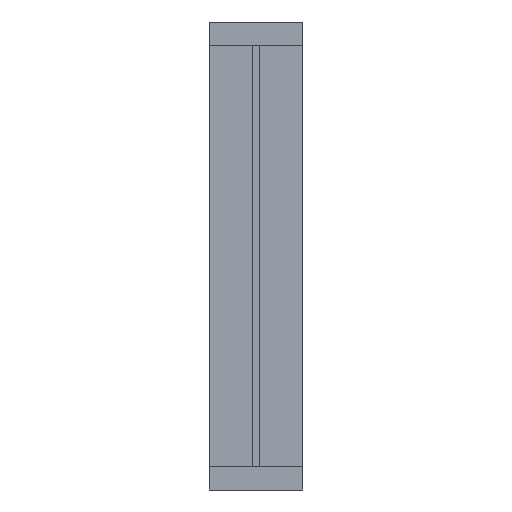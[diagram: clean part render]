
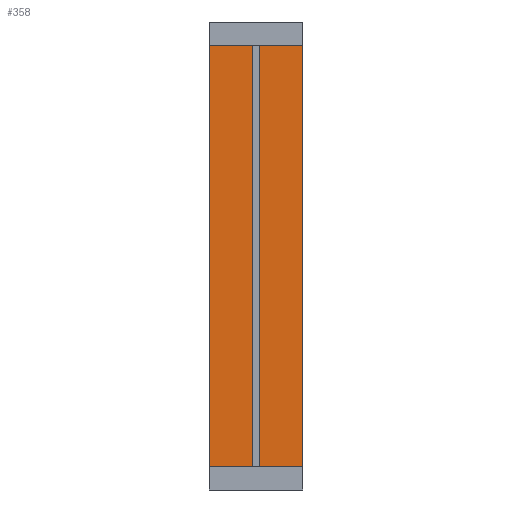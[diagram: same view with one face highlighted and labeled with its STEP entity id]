
A CAD part, front view. The second image highlights one B-rep face of the part: STEP entity #358.
In plain terms, the highlighted planar face has unit normal (0, -1, 0).
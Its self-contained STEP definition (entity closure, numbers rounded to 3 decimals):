
#54 = PLANE ( 'NONE',  #329 ) ;
#55 = EDGE_CURVE ( 'NONE', #631, #1055, #356, .T. ) ;
#69 = VECTOR ( 'NONE', #707, 1000. ) ;
#74 = VECTOR ( 'NONE', #201, 1000. ) ;
#76 = CARTESIAN_POINT ( 'NONE',  ( -190., 520., 1900. ) ) ;
#96 = VECTOR ( 'NONE', #901, 1000. ) ;
#116 = EDGE_CURVE ( 'NONE', #1217, #273, #851, .T. ) ;
#117 = DIRECTION ( 'NONE',  ( -1., 0., 0. ) ) ;
#147 = EDGE_CURVE ( 'NONE', #1073, #876, #1216, .T. ) ;
#161 = ORIENTED_EDGE ( 'NONE', *, *, #116, .F. ) ;
#180 = CARTESIAN_POINT ( 'NONE',  ( 190., 520., 100. ) ) ;
#201 = DIRECTION ( 'NONE',  ( 0., 0., -1. ) ) ;
#205 = VECTOR ( 'NONE', #1149, 1000. ) ;
#210 = CARTESIAN_POINT ( 'NONE',  ( 190., 520., 100. ) ) ;
#269 = EDGE_CURVE ( 'NONE', #876, #1217, #1221, .T. ) ;
#273 = VERTEX_POINT ( 'NONE', #996 ) ;
#274 = CARTESIAN_POINT ( 'NONE',  ( 190., 520., 1900. ) ) ;
#275 = VERTEX_POINT ( 'NONE', #1460 ) ;
#282 = EDGE_LOOP ( 'NONE', ( #1402, #369, #1447, #867, #449, #371, #1415, #1020, #757, #649, #161, #1079 ) ) ;
#289 = VECTOR ( 'NONE', #535, 1000. ) ;
#294 = EDGE_CURVE ( 'NONE', #1055, #361, #465, .T. ) ;
#295 = CARTESIAN_POINT ( 'NONE',  ( 200., 520., 100. ) ) ;
#329 = AXIS2_PLACEMENT_3D ( 'NONE', #1316, #1333, #509 ) ;
#356 = LINE ( 'NONE', #1371, #69 ) ;
#358 = ADVANCED_FACE ( 'NONE', ( #1224 ), #54, .T. ) ;
#361 = VERTEX_POINT ( 'NONE', #180 ) ;
#369 = ORIENTED_EDGE ( 'NONE', *, *, #452, .F. ) ;
#370 = DIRECTION ( 'NONE',  ( 0., 0., 1. ) ) ;
#371 = ORIENTED_EDGE ( 'NONE', *, *, #294, .F. ) ;
#392 = CARTESIAN_POINT ( 'NONE',  ( -190., 520., 2000. ) ) ;
#449 = ORIENTED_EDGE ( 'NONE', *, *, #1121, .F. ) ;
#452 = EDGE_CURVE ( 'NONE', #1231, #1073, #1372, .T. ) ;
#465 = LINE ( 'NONE', #1285, #671 ) ;
#481 = VERTEX_POINT ( 'NONE', #1472 ) ;
#509 = DIRECTION ( 'NONE',  ( 0., 0., -1. ) ) ;
#527 = CARTESIAN_POINT ( 'NONE',  ( -200., 520., 100. ) ) ;
#535 = DIRECTION ( 'NONE',  ( 1., 0., 0. ) ) ;
#625 = DIRECTION ( 'NONE',  ( 0., 0., 1. ) ) ;
#631 = VERTEX_POINT ( 'NONE', #917 ) ;
#639 = EDGE_CURVE ( 'NONE', #275, #1231, #1387, .T. ) ;
#649 = ORIENTED_EDGE ( 'NONE', *, *, #990, .F. ) ;
#658 = CARTESIAN_POINT ( 'NONE',  ( -190., 520., 1900. ) ) ;
#671 = VECTOR ( 'NONE', #699, 1000. ) ;
#672 = VECTOR ( 'NONE', #1349, 1000. ) ;
#699 = DIRECTION ( 'NONE',  ( -1., 0., 0. ) ) ;
#707 = DIRECTION ( 'NONE',  ( 0., 0., -1. ) ) ;
#708 = CARTESIAN_POINT ( 'NONE',  ( 190., 520., 1900. ) ) ;
#727 = DIRECTION ( 'NONE',  ( 1., 0., 0. ) ) ;
#737 = VERTEX_POINT ( 'NONE', #1412 ) ;
#738 = CARTESIAN_POINT ( 'NONE',  ( -200., 520., 1900. ) ) ;
#756 = EDGE_CURVE ( 'NONE', #1441, #631, #954, .T. ) ;
#757 = ORIENTED_EDGE ( 'NONE', *, *, #1278, .F. ) ;
#777 = LINE ( 'NONE', #1267, #1356 ) ;
#851 = LINE ( 'NONE', #392, #930 ) ;
#867 = ORIENTED_EDGE ( 'NONE', *, *, #1344, .F. ) ;
#876 = VERTEX_POINT ( 'NONE', #1077 ) ;
#879 = VECTOR ( 'NONE', #727, 1000. ) ;
#901 = DIRECTION ( 'NONE',  ( 0., 0., -1. ) ) ;
#917 = CARTESIAN_POINT ( 'NONE',  ( 200., 520., 1900. ) ) ;
#924 = CARTESIAN_POINT ( 'NONE',  ( -190., 520., 100. ) ) ;
#930 = VECTOR ( 'NONE', #370, 1000. ) ;
#954 = LINE ( 'NONE', #274, #879 ) ;
#980 = CARTESIAN_POINT ( 'NONE',  ( 190., 520., 2000. ) ) ;
#990 = EDGE_CURVE ( 'NONE', #273, #481, #1442, .T. ) ;
#994 = LINE ( 'NONE', #210, #96 ) ;
#996 = CARTESIAN_POINT ( 'NONE',  ( -190., 520., 2000. ) ) ;
#1020 = ORIENTED_EDGE ( 'NONE', *, *, #756, .F. ) ;
#1055 = VERTEX_POINT ( 'NONE', #295 ) ;
#1073 = VERTEX_POINT ( 'NONE', #527 ) ;
#1077 = CARTESIAN_POINT ( 'NONE',  ( -200., 520., 1900. ) ) ;
#1079 = ORIENTED_EDGE ( 'NONE', *, *, #269, .F. ) ;
#1100 = CARTESIAN_POINT ( 'NONE',  ( -190., 520., 2000. ) ) ;
#1108 = DIRECTION ( 'NONE',  ( 1., 0., 0. ) ) ;
#1121 = EDGE_CURVE ( 'NONE', #361, #737, #994, .T. ) ;
#1149 = DIRECTION ( 'NONE',  ( 0., 0., 1. ) ) ;
#1186 = VECTOR ( 'NONE', #1108, 1000. ) ;
#1216 = LINE ( 'NONE', #738, #1376 ) ;
#1217 = VERTEX_POINT ( 'NONE', #658 ) ;
#1221 = LINE ( 'NONE', #76, #289 ) ;
#1224 = FACE_OUTER_BOUND ( 'NONE', #282, .T. ) ;
#1231 = VERTEX_POINT ( 'NONE', #1260 ) ;
#1242 = LINE ( 'NONE', #980, #74 ) ;
#1260 = CARTESIAN_POINT ( 'NONE',  ( -190., 520., 100. ) ) ;
#1267 = CARTESIAN_POINT ( 'NONE',  ( -190., 520., 0. ) ) ;
#1278 = EDGE_CURVE ( 'NONE', #481, #1441, #1242, .T. ) ;
#1285 = CARTESIAN_POINT ( 'NONE',  ( 200., 520., 100. ) ) ;
#1316 = CARTESIAN_POINT ( 'NONE',  ( 0., 520., 0. ) ) ;
#1333 = DIRECTION ( 'NONE',  ( 0., -1., 0. ) ) ;
#1344 = EDGE_CURVE ( 'NONE', #737, #275, #777, .T. ) ;
#1349 = DIRECTION ( 'NONE',  ( -1., 0., 0. ) ) ;
#1356 = VECTOR ( 'NONE', #117, 1000. ) ;
#1371 = CARTESIAN_POINT ( 'NONE',  ( 200., 520., 1900. ) ) ;
#1372 = LINE ( 'NONE', #1455, #672 ) ;
#1376 = VECTOR ( 'NONE', #625, 1000. ) ;
#1387 = LINE ( 'NONE', #924, #205 ) ;
#1402 = ORIENTED_EDGE ( 'NONE', *, *, #147, .F. ) ;
#1412 = CARTESIAN_POINT ( 'NONE',  ( 190., 520., 0. ) ) ;
#1415 = ORIENTED_EDGE ( 'NONE', *, *, #55, .F. ) ;
#1441 = VERTEX_POINT ( 'NONE', #708 ) ;
#1442 = LINE ( 'NONE', #1100, #1186 ) ;
#1447 = ORIENTED_EDGE ( 'NONE', *, *, #639, .F. ) ;
#1455 = CARTESIAN_POINT ( 'NONE',  ( -200., 520., 100. ) ) ;
#1460 = CARTESIAN_POINT ( 'NONE',  ( -190., 520., 0. ) ) ;
#1472 = CARTESIAN_POINT ( 'NONE',  ( 190., 520., 2000. ) ) ;
